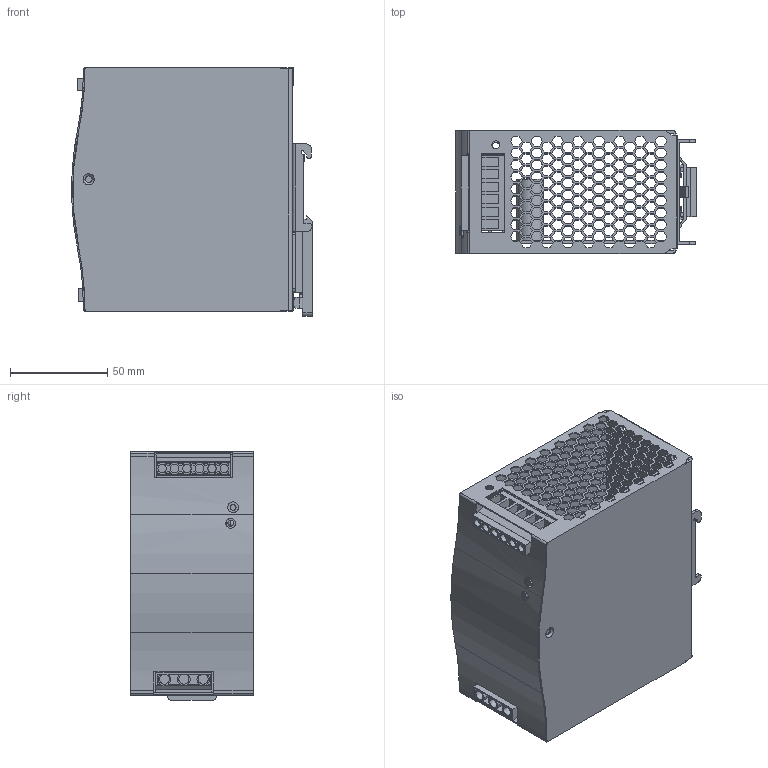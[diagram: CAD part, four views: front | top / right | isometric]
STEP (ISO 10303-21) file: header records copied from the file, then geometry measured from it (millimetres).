
FILE_DESCRIPTION(('OneSpaceDesigner STEP Export'),'2;1');
FILE_NAME('WDR-240.stp','2010-06-09T10:02:36',(''),(''),'OneSpace Designer STEP processor for AP214 (Solid Model)','OneSpace Designer 13.20 11-May-2005 (C) CoCreate Software GmbH','');
FILE_SCHEMA(('AUTOMOTIVE_DESIGN { 1 0 10303 214 1 1 1 1 }'));
Length unit declared in the file: millimetre
Products named in the file (6): ºÝ¤l2; pcb2; ºÝ¤l; ©³®y; ±¾®y; wdr-240
Assembly tree (5 placements, depth 2):
  wdr-240
    ±¾®y
    ©³®y
    ºÝ¤l
    pcb2
    ºÝ¤l2
Bounding box: 123.75 x 63 x 127.81 mm (x, y, z)
Volume: 130771.2 mm3; surface area: 165902.6 mm2
Topology: 5 solids, 5 shells, 2402 faces, 7050 edges, 4677 vertices
Faces by surface type: plane 2148, cylinder 230, cone 14, bspline 8, torus 2
Entity records: 75912 total; most frequent: CARTESIAN_POINT 15503, ORIENTED_EDGE 14100, DIRECTION 9705, EDGE_CURVE 7050, VECTOR 6353, LINE 6353, VERTEX_POINT 4677, EDGE_LOOP 3071
